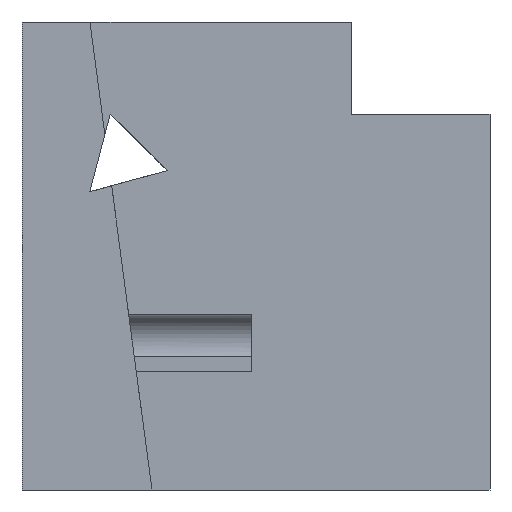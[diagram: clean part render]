
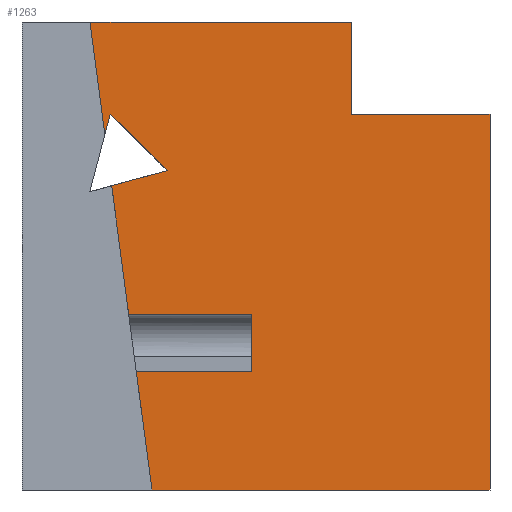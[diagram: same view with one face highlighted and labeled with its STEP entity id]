
A CAD part, front view. The second image highlights one B-rep face of the part: STEP entity #1263.
In plain terms, the highlighted planar face has unit normal (0, -1, 0).
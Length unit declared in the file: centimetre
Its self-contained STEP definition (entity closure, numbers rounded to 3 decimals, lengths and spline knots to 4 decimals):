
#15 = CARTESIAN_POINT ( 'NONE',  ( 191.6039, 0., 650.0192 ) ) ;
#24 = CARTESIAN_POINT ( 'NONE',  ( 703.3092, 0., 803.2384 ) ) ;
#29 = ORIENTED_EDGE ( 'NONE', *, *, #744, .F. ) ;
#35 = CARTESIAN_POINT ( 'NONE',  ( 310.422, 0., 682.6218 ) ) ;
#54 = VERTEX_POINT ( 'NONE', #1636 ) ;
#100 = ORIENTED_EDGE ( 'NONE', *, *, #1296, .F. ) ;
#111 = VERTEX_POINT ( 'NONE', #1449 ) ;
#147 = PLANE ( 'NONE',  #159 ) ;
#159 = AXIS2_PLACEMENT_3D ( 'NONE', #690, #810, #1087 ) ;
#165 = CARTESIAN_POINT ( 'NONE',  ( 703.3092, 0., 803.2384 ) ) ;
#170 = LINE ( 'NONE', #1548, #1216 ) ;
#187 = LINE ( 'NONE', #309, #512 ) ;
#193 = ORIENTED_EDGE ( 'NONE', *, *, #203, .T. ) ;
#202 = ORIENTED_EDGE ( 'NONE', *, *, #578, .T. ) ;
#203 = EDGE_CURVE ( 'NONE', #111, #1484, #587, .T. ) ;
#204 = CARTESIAN_POINT ( 'NONE',  ( 1000., 0., 803.2384 ) ) ;
#209 = ORIENTED_EDGE ( 'NONE', *, *, #576, .F. ) ;
#239 = EDGE_CURVE ( 'NONE', #502, #830, #1531, .T. ) ;
#244 = ORIENTED_EDGE ( 'NONE', *, *, #315, .T. ) ;
#250 = CARTESIAN_POINT ( 'NONE',  ( 144.9285, 0., 637.2119 ) ) ;
#259 = DIRECTION ( 'NONE',  ( 1., 0., 0. ) ) ;
#285 = ORIENTED_EDGE ( 'NONE', *, *, #882, .T. ) ;
#286 = VECTOR ( 'NONE', #908, 100. ) ;
#290 = CARTESIAN_POINT ( 'NONE',  ( 1000., 0., 0. ) ) ;
#292 = EDGE_LOOP ( 'NONE', ( #209, #514, #388, #100, #505, #1451, #193, #1439, #1241, #29, #244, #202, #1408, #285 ) ) ;
#302 = CARTESIAN_POINT ( 'NONE',  ( 0., 0., 1000. ) ) ;
#306 = LINE ( 'NONE', #482, #397 ) ;
#309 = CARTESIAN_POINT ( 'NONE',  ( 1000., 0., 1000. ) ) ;
#315 = EDGE_CURVE ( 'NONE', #450, #1124, #648, .T. ) ;
#334 = EDGE_CURVE ( 'NONE', #1435, #111, #636, .T. ) ;
#345 = DIRECTION ( 'NONE',  ( 0., 0., -1. ) ) ;
#352 = DIRECTION ( 'NONE',  ( -1., 0., 0. ) ) ;
#386 = CARTESIAN_POINT ( 'NONE',  ( 491.0264, 0., 374.8233 ) ) ;
#388 = ORIENTED_EDGE ( 'NONE', *, *, #1012, .F. ) ;
#397 = VECTOR ( 'NONE', #1228, 100. ) ;
#422 = VECTOR ( 'NONE', #567, 100. ) ;
#426 = VECTOR ( 'NONE', #259, 100. ) ;
#434 = VERTEX_POINT ( 'NONE', #15 ) ;
#439 = VECTOR ( 'NONE', #1225, 100. ) ;
#450 = VERTEX_POINT ( 'NONE', #386 ) ;
#472 = VERTEX_POINT ( 'NONE', #290 ) ;
#482 = CARTESIAN_POINT ( 'NONE',  ( 703.3092, 0., 803.2384 ) ) ;
#486 = CARTESIAN_POINT ( 'NONE',  ( 491.0264, 0., 374.8233 ) ) ;
#498 = CARTESIAN_POINT ( 'NONE',  ( 188.3491, 0., 803.2384 ) ) ;
#502 = VERTEX_POINT ( 'NONE', #24 ) ;
#505 = ORIENTED_EDGE ( 'NONE', *, *, #1374, .F. ) ;
#512 = VECTOR ( 'NONE', #719, 100. ) ;
#514 = ORIENTED_EDGE ( 'NONE', *, *, #239, .F. ) ;
#567 = DIRECTION ( 'NONE',  ( 1., 0., 0. ) ) ;
#576 = EDGE_CURVE ( 'NONE', #830, #472, #187, .T. ) ;
#578 = EDGE_CURVE ( 'NONE', #1124, #1425, #170, .T. ) ;
#587 = LINE ( 'NONE', #35, #1663 ) ;
#636 = LINE ( 'NONE', #498, #286 ) ;
#641 = FACE_OUTER_BOUND ( 'NONE', #292, .T. ) ;
#645 = CARTESIAN_POINT ( 'NONE',  ( 0., 0., 0. ) ) ;
#648 = LINE ( 'NONE', #1718, #1603 ) ;
#668 = DIRECTION ( 'NONE',  ( -0.131, 0., 0.991 ) ) ;
#672 = VECTOR ( 'NONE', #1381, 100. ) ;
#690 = CARTESIAN_POINT ( 'NONE',  ( 0., 0., 1000. ) ) ;
#716 = CARTESIAN_POINT ( 'NONE',  ( 491.0264, 0., 253.3036 ) ) ;
#718 = VERTEX_POINT ( 'NONE', #1034 ) ;
#719 = DIRECTION ( 'NONE',  ( 0., 0., -1. ) ) ;
#729 = DIRECTION ( 'NONE',  ( -1., 0., 0. ) ) ;
#744 = EDGE_CURVE ( 'NONE', #450, #718, #1583, .T. ) ;
#768 = CARTESIAN_POINT ( 'NONE',  ( 277.6552, 0., 0. ) ) ;
#810 = DIRECTION ( 'NONE',  ( 0., 1., 0. ) ) ;
#812 = VECTOR ( 'NONE', #858, 100. ) ;
#830 = VERTEX_POINT ( 'NONE', #204 ) ;
#837 = LINE ( 'NONE', #1522, #672 ) ;
#858 = DIRECTION ( 'NONE',  ( -0.131, 0., 0.991 ) ) ;
#882 = EDGE_CURVE ( 'NONE', #1571, #472, #1480, .T. ) ;
#908 = DIRECTION ( 'NONE',  ( 0.253, 0., 0.967 ) ) ;
#960 = EDGE_CURVE ( 'NONE', #1484, #434, #1192, .T. ) ;
#984 = CARTESIAN_POINT ( 'NONE',  ( 177.0433, 0., 760.0084 ) ) ;
#1002 = LINE ( 'NONE', #1129, #812 ) ;
#1008 = DIRECTION ( 'NONE',  ( 0.711, 0., -0.703 ) ) ;
#1012 = EDGE_CURVE ( 'NONE', #54, #502, #306, .T. ) ;
#1034 = CARTESIAN_POINT ( 'NONE',  ( 228.0351, 0., 374.8233 ) ) ;
#1083 = DIRECTION ( 'NONE',  ( -0.964, 0., -0.265 ) ) ;
#1087 = DIRECTION ( 'NONE',  ( 0., 0., 1. ) ) ;
#1104 = CARTESIAN_POINT ( 'NONE',  ( 145.2725, 0., 1000. ) ) ;
#1124 = VERTEX_POINT ( 'NONE', #716 ) ;
#1129 = CARTESIAN_POINT ( 'NONE',  ( 145.2725, 0., 1000. ) ) ;
#1138 = CARTESIAN_POINT ( 'NONE',  ( 244.1222, 0., 253.3036 ) ) ;
#1145 = CARTESIAN_POINT ( 'NONE',  ( 310.422, 0., 682.6218 ) ) ;
#1147 = VECTOR ( 'NONE', #668, 100. ) ;
#1192 = LINE ( 'NONE', #250, #1305 ) ;
#1216 = VECTOR ( 'NONE', #729, 100. ) ;
#1225 = DIRECTION ( 'NONE',  ( 1., 0., 0. ) ) ;
#1228 = DIRECTION ( 'NONE',  ( 0., 0., -1. ) ) ;
#1241 = ORIENTED_EDGE ( 'NONE', *, *, #1450, .F. ) ;
#1263 = ADVANCED_FACE ( 'NONE', ( #641 ), #147, .F. ) ;
#1296 = EDGE_CURVE ( 'NONE', #1751, #54, #1356, .T. ) ;
#1305 = VECTOR ( 'NONE', #1083, 100. ) ;
#1356 = LINE ( 'NONE', #302, #439 ) ;
#1374 = EDGE_CURVE ( 'NONE', #1435, #1751, #837, .T. ) ;
#1381 = DIRECTION ( 'NONE',  ( -0.131, 0., 0.991 ) ) ;
#1408 = ORIENTED_EDGE ( 'NONE', *, *, #1688, .F. ) ;
#1425 = VERTEX_POINT ( 'NONE', #1138 ) ;
#1435 = VERTEX_POINT ( 'NONE', #984 ) ;
#1439 = ORIENTED_EDGE ( 'NONE', *, *, #960, .T. ) ;
#1449 = CARTESIAN_POINT ( 'NONE',  ( 188.3491, 0., 803.2384 ) ) ;
#1450 = EDGE_CURVE ( 'NONE', #718, #434, #1002, .T. ) ;
#1451 = ORIENTED_EDGE ( 'NONE', *, *, #334, .T. ) ;
#1480 = LINE ( 'NONE', #645, #426 ) ;
#1484 = VERTEX_POINT ( 'NONE', #1145 ) ;
#1516 = VECTOR ( 'NONE', #352, 100. ) ;
#1521 = CARTESIAN_POINT ( 'NONE',  ( 145.2725, 0., 1000. ) ) ;
#1522 = CARTESIAN_POINT ( 'NONE',  ( 145.2725, 0., 1000. ) ) ;
#1531 = LINE ( 'NONE', #165, #422 ) ;
#1548 = CARTESIAN_POINT ( 'NONE',  ( 491.0264, 0., 253.3036 ) ) ;
#1571 = VERTEX_POINT ( 'NONE', #768 ) ;
#1583 = LINE ( 'NONE', #486, #1516 ) ;
#1603 = VECTOR ( 'NONE', #345, 100. ) ;
#1636 = CARTESIAN_POINT ( 'NONE',  ( 703.3092, 0., 1000. ) ) ;
#1663 = VECTOR ( 'NONE', #1008, 100. ) ;
#1688 = EDGE_CURVE ( 'NONE', #1571, #1425, #1767, .T. ) ;
#1718 = CARTESIAN_POINT ( 'NONE',  ( 491.0264, 0., 1000. ) ) ;
#1751 = VERTEX_POINT ( 'NONE', #1521 ) ;
#1767 = LINE ( 'NONE', #1104, #1147 ) ;
